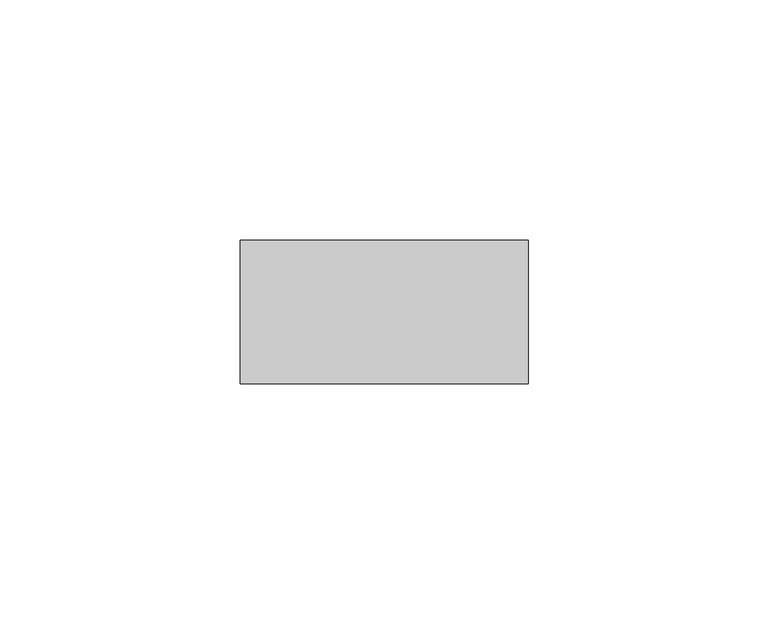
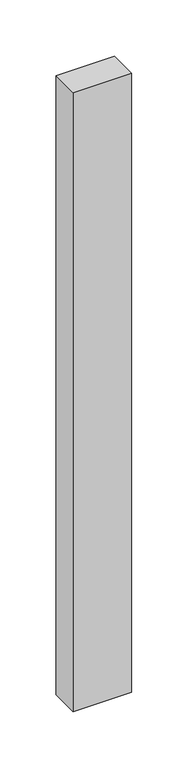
"""IFC4 building model written with IfcOpenShell, lengths in millimetres: member geometry, Прямоугольный импост : Квадрат 30 мм."""

from ifc_helpers import new_model, si_unit, frame, origin, place, context, project, spatial, polyline, outline, extrude, source, transform, mapped, element, save


def member_02f36124(model_context):
    return source(origin(), model_context, "Body", "SweptSolid", [
        extrude(outline(polyline([(30.0, 15.0), (30.0, -15.0), (-30.0, -15.0), (-30.0, 15.0), (30.0, 15.0)])), frame((0.0, 0.0, -670.0), z_axis=(0.0, 0.0, 1.0), x_axis=(1.0, 0.0, 0.0)), (0.0, 0.0, 1.0), 670.0),
    ])


if __name__ == "__main__":
    model = new_model("IFC4")
    model_context = context("Model", 3, world=origin())
    ifc_project = project(units=[si_unit("LENGTHUNIT", "METRE", prefix="MILLI")], contexts=[model_context])
    site = spatial("IfcSite", under=ifc_project)
    building = spatial("IfcBuilding", under=site)
    placement = place(None, origin())
    member_shape = member_02f36124(model_context)
    element("IfcMember", 1, ObjectType="Прямоугольный импост : Квадрат 30 мм", at=placement, inside=building, context=model_context, shape_type="MappedRepresentation", body=[
        mapped(member_shape, transform((0.0, 0.0, 0.0), x_axis=(1.0, 0.0, 0.0), y_axis=(0.0, 1.0, 0.0), z_axis=(0.0, 0.0, 1.0))),
    ])
    save(model, "model.ifc")
